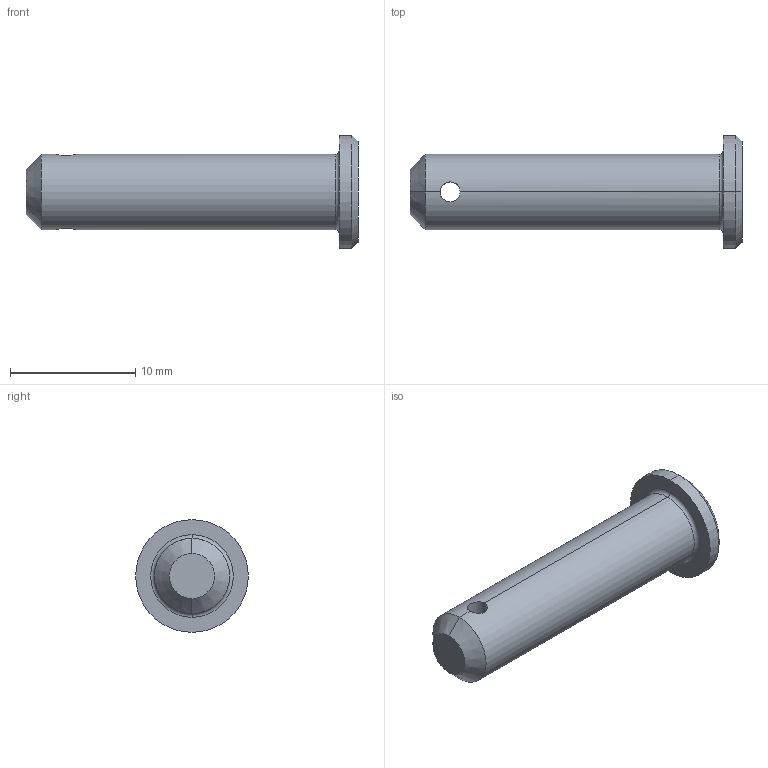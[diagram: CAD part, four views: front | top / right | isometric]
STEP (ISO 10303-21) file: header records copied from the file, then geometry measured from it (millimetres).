
FILE_DESCRIPTION (( 'STEP AP203' ), '1' );
FILE_NAME ('Wiberger-sms2360_6x25.step', '2012-10-09T08:58:18', ( 'Magnus' ), ( 'Wiberger' ), 'SwSTEP 2.0', 'SolidWorks 2011', '' );
FILE_SCHEMA (( 'CONFIG_CONTROL_DESIGN' ));
Length unit declared in the file: millimetre
Products named in the file (1): Wiberger-sms2360_6x25
Bounding box: 26.5 x 9 x 9 mm (x, y, z)
Volume: 775.5 mm3; surface area: 640.3 mm2
Topology: 1 solids, 1 shells, 15 faces, 32 edges, 18 vertices
Faces by surface type: cylinder 6, cone 4, plane 3, torus 2
Entity records: 539 total; most frequent: CARTESIAN_POINT 130, DIRECTION 76, ORIENTED_EDGE 64, AXIS2_PLACEMENT_3D 32, EDGE_CURVE 32, VERTEX_POINT 18, CIRCLE 16, EDGE_LOOP 16
